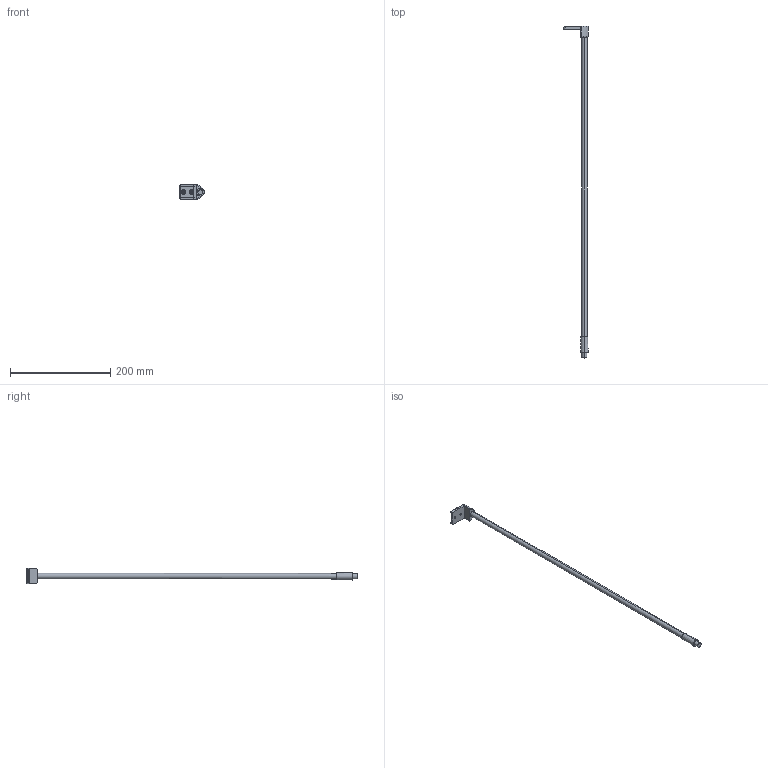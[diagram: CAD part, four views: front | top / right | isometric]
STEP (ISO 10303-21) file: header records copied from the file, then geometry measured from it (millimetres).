
FILE_DESCRIPTION (( 'STEP AP214' ), '1' );
FILE_NAME ('_2S_RUL_7107_NL650_RE.step', '2010-06-29T14:08:23', ( 'grass' ), ( '' ), 'SwSTEP 2.0', 'SolidWorks 2009', '' );
FILE_SCHEMA (( 'AUTOMOTIVE_DESIGN' ));
Length unit declared in the file: millimetre
Products named in the file (1): _2S_RUL_7107_NL650_RE
Bounding box: 49.5 x 663 x 30 mm (x, y, z)
Volume: 73251 mm3; surface area: 27523.5 mm2
Topology: 1 solids, 1 shells, 89 faces, 203 edges, 118 vertices
Faces by surface type: cylinder 32, plane 17, torus 16, bspline 16, cone 6, sphere 2
Entity records: 4566 total; most frequent: CARTESIAN_POINT 2608, DIRECTION 411, ORIENTED_EDGE 402, EDGE_CURVE 201, AXIS2_PLACEMENT_3D 172, VERTEX_POINT 118, CIRCLE 98, EDGE_LOOP 97
